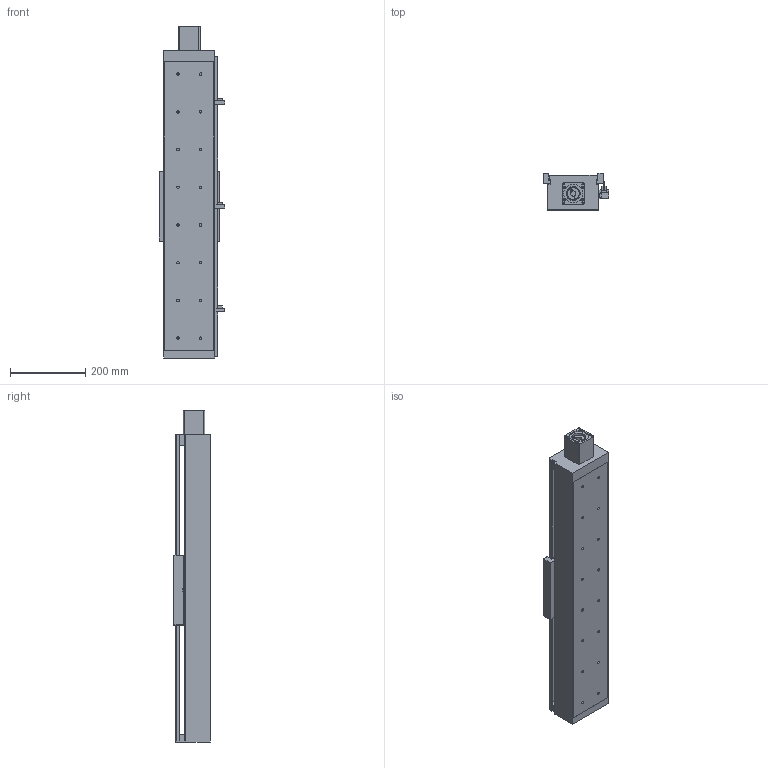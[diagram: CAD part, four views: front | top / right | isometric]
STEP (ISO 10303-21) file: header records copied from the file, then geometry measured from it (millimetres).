
FILE_DESCRIPTION((''),'2;1');
FILE_NAME('E:\libraries\UIA actuator library 2009\standard actuator\UIA136 ball screw 25\UIA136R15NDC-_ _ _-R25_ _, stp file 27Apr16\UIA136R15NDC-550-R25_ _-M60-P13-C10-S.stp','2016-04-28T16:40:00',('h029'),(''),'Autodesk Inventor 11','Autodesk Inventor 11','');
FILE_SCHEMA(('AUTOMOTIVE_DESIGN { 1 0 10303 214 1 1 1 1 }'));
Length unit declared in the file: millimetre
Products named in the file (10): UIA136R15NDC-550; UIA136R15NDC-body; motor mount F60; SOH-32C; SOH-32C-3; SOH-32C-1; SOH-32C-2; Carriage; Sensor Switch; sensor rail
Assembly tree (9 placements, depth 3):
  UIA136R15NDC-550
    UIA136R15NDC-body
    motor mount F60
    SOH-32C
      SOH-32C-3
      SOH-32C-1
      SOH-32C-2
    Carriage
    Sensor Switch
    sensor rail
Bounding box: 174.5 x 98 x 880 mm (x, y, z)
Volume: 3539085.3 mm3; surface area: 943928.9 mm2
Topology: 8 solids, 8 shells, 504 faces, 1331 edges, 870 vertices
Faces by surface type: plane 322, bspline 134, cylinder 44, cone 4
Full cylindrical faces by diameter (mm): 2.459 x2, 3.242 x2, 4.5 x2, 7 x4, 7.5 x2, 14 x3, 17 x1, 32 x3, 37 x1, 50.3 x1, 50.5 x1
Entity records: 16444 total; most frequent: CARTESIAN_POINT 4700, ORIENTED_EDGE 2272, DIRECTION 2226, EDGE_CURVE 1136, VECTOR 808, LINE 808, VERTEX_POINT 806, EDGE_LOOP 748
